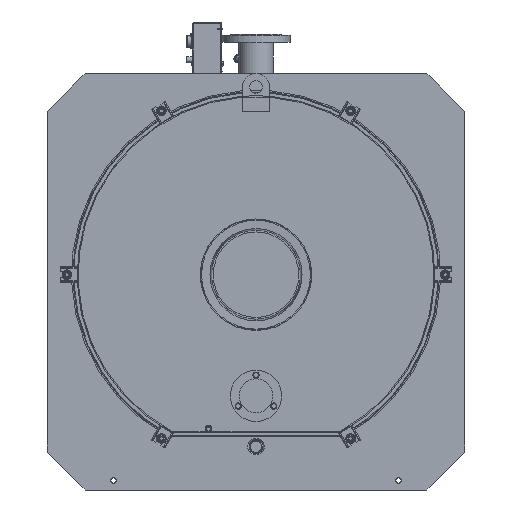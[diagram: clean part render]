
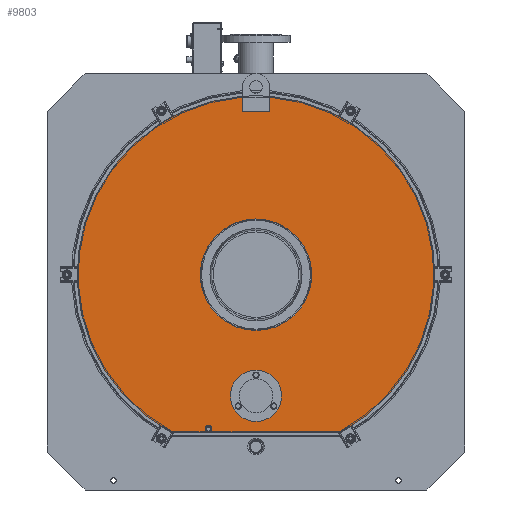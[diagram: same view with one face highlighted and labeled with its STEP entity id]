
A CAD part, left-side view. The second image highlights one B-rep face of the part: STEP entity #9803.
In plain terms, the highlighted planar face has unit normal (-1, 0, 0).
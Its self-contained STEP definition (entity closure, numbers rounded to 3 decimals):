
#9803=ADVANCED_FACE('',(#39578,#39580,#39582),#39584,.T.);
#39578=FACE_BOUND('',#39579,.T.);
#39579=EDGE_LOOP('',(#75837,#75838,#75839,#75840,#75841,#75842,#75843,#75844,#75845,
#75846));
#39580=FACE_BOUND('',#39581,.T.);
#39581=EDGE_LOOP('',(#75847));
#39582=FACE_BOUND('',#39583,.T.);
#39583=EDGE_LOOP('',(#75848));
#39584=PLANE('',#39585);
#39585=AXIS2_PLACEMENT_3D('',#39586,#39587,#39588);
#39586=CARTESIAN_POINT('',(-2218.,0.,0.));
#39587=DIRECTION('',(-1.,0.,0.));
#39588=DIRECTION('',(0.,-1.,0.));
#75837=ORIENTED_EDGE('',*,*,#88379,.F.);
#75838=ORIENTED_EDGE('',*,*,#88380,.F.);
#75839=ORIENTED_EDGE('',*,*,#88381,.F.);
#75840=ORIENTED_EDGE('',*,*,#88382,.T.);
#75841=ORIENTED_EDGE('',*,*,#88369,.T.);
#75842=ORIENTED_EDGE('',*,*,#88361,.T.);
#75843=ORIENTED_EDGE('',*,*,#88338,.T.);
#75844=ORIENTED_EDGE('',*,*,#88373,.T.);
#75845=ORIENTED_EDGE('',*,*,#88367,.T.);
#75846=ORIENTED_EDGE('',*,*,#88383,.T.);
#75847=ORIENTED_EDGE('',*,*,#88352,.T.);
#75848=ORIENTED_EDGE('',*,*,#88384,.F.);
#88338=EDGE_CURVE('',#97246,#97244,#97247,.F.);
#88352=EDGE_CURVE('',#97273,#97273,#97274,.F.);
#88361=EDGE_CURVE('',#97291,#97246,#97292,.F.);
#88367=EDGE_CURVE('',#97303,#97301,#97304,.T.);
#88369=EDGE_CURVE('',#97306,#97291,#97307,.T.);
#88373=EDGE_CURVE('',#97244,#97303,#97313,.F.);
#88379=EDGE_CURVE('',#97322,#97323,#97324,.T.);
#88380=EDGE_CURVE('',#97325,#97322,#97326,.T.);
#88381=EDGE_CURVE('',#97327,#97325,#97328,.T.);
#88382=EDGE_CURVE('',#97327,#97306,#97329,.T.);
#88383=EDGE_CURVE('',#97301,#97323,#97330,.T.);
#88384=EDGE_CURVE('',#97331,#97331,#97332,.T.);
#97244=VERTEX_POINT('',#117110);
#97246=VERTEX_POINT('',#117114);
#97247=CIRCLE('',#117115,11.);
#97273=VERTEX_POINT('',#117690);
#97274=CIRCLE('',#117691,176.);
#97291=VERTEX_POINT('',#117989);
#97292=LINE('',#117990,#117991);
#97301=VERTEX_POINT('',#118009);
#97303=VERTEX_POINT('',#118013);
#97304=LINE('',#118014,#118015);
#97306=VERTEX_POINT('',#118020);
#97307=LINE('',#118021,#118022);
#97313=LINE('',#118035,#118036);
#97322=VERTEX_POINT('',#118088);
#97323=VERTEX_POINT('',#118089);
#97324=LINE('',#118090,#118091);
#97325=VERTEX_POINT('',#118093);
#97326=LINE('',#118094,#118095);
#97327=VERTEX_POINT('',#118097);
#97328=LINE('',#118098,#118099);
#97329=CIRCLE('',#118101,565.);
#97330=CIRCLE('',#118105,565.);
#97331=VERTEX_POINT('',#118109);
#97332=CIRCLE('',#118110,81.);
#117110=CARTESIAN_POINT('',(-2218.,145.417,-496.5));
#117114=CARTESIAN_POINT('',(-2218.,154.583,-496.5));
#117115=AXIS2_PLACEMENT_3D('',#117116,#117117,#117118);
#117116=CARTESIAN_POINT('',(-2218.,150.,-486.5));
#117117=DIRECTION('',(-1.,0.,0.));
#117118=DIRECTION('',(0.,-0.417,-0.909));
#117690=CARTESIAN_POINT('',(-2218.,-176.,0.));
#117691=AXIS2_PLACEMENT_3D('',#117692,#117693,#117694);
#117692=CARTESIAN_POINT('',(-2218.,0.,0.));
#117693=DIRECTION('',(-1.,0.,0.));
#117694=DIRECTION('',(0.,-1.,0.));
#117989=CARTESIAN_POINT('',(-2218.,154.583,-497.5));
#117990=CARTESIAN_POINT('',(-2218.,154.583,-496.5));
#117991=VECTOR('',#117992,1.);
#117992=DIRECTION('',(0.,0.,-1.));
#118009=CARTESIAN_POINT('',(-2218.,-267.804,-497.5));
#118013=CARTESIAN_POINT('',(-2218.,145.417,-497.5));
#118014=CARTESIAN_POINT('',(-2218.,145.417,-497.5));
#118015=VECTOR('',#118016,1.);
#118016=DIRECTION('',(0.,-1.,0.));
#118020=CARTESIAN_POINT('',(-2218.,267.804,-497.5));
#118021=CARTESIAN_POINT('',(-2218.,267.804,-497.5));
#118022=VECTOR('',#118023,1.);
#118023=DIRECTION('',(0.,-1.,0.));
#118035=CARTESIAN_POINT('',(-2218.,145.417,-497.5));
#118036=VECTOR('',#118037,1.);
#118037=DIRECTION('',(0.,0.,1.));
#118088=CARTESIAN_POINT('',(-2218.,-43.,517.));
#118089=CARTESIAN_POINT('',(-2218.,-43.,563.361));
#118090=CARTESIAN_POINT('',(-2218.,-43.,517.));
#118091=VECTOR('',#118092,1.);
#118092=DIRECTION('',(0.,0.,1.));
#118093=CARTESIAN_POINT('',(-2218.,43.,517.));
#118094=CARTESIAN_POINT('',(-2218.,43.,517.));
#118095=VECTOR('',#118096,1.);
#118096=DIRECTION('',(0.,-1.,0.));
#118097=CARTESIAN_POINT('',(-2218.,43.,563.361));
#118098=CARTESIAN_POINT('',(-2218.,43.,563.361));
#118099=VECTOR('',#118100,1.);
#118100=DIRECTION('',(0.,0.,-1.));
#118101=AXIS2_PLACEMENT_3D('',#118102,#118103,#118104);
#118102=CARTESIAN_POINT('',(-2218.,0.,0.));
#118103=DIRECTION('',(-1.,0.,0.));
#118104=DIRECTION('',(0.,0.076,0.997));
#118105=AXIS2_PLACEMENT_3D('',#118106,#118107,#118108);
#118106=CARTESIAN_POINT('',(-2218.,0.,0.));
#118107=DIRECTION('',(-1.,0.,0.));
#118108=DIRECTION('',(0.,-0.474,-0.881));
#118109=CARTESIAN_POINT('',(-2218.,-81.,-382.5));
#118110=AXIS2_PLACEMENT_3D('',#118111,#118112,#118113);
#118111=CARTESIAN_POINT('',(-2218.,0.,-382.5));
#118112=DIRECTION('',(-1.,0.,0.));
#118113=DIRECTION('',(0.,-1.,0.));
